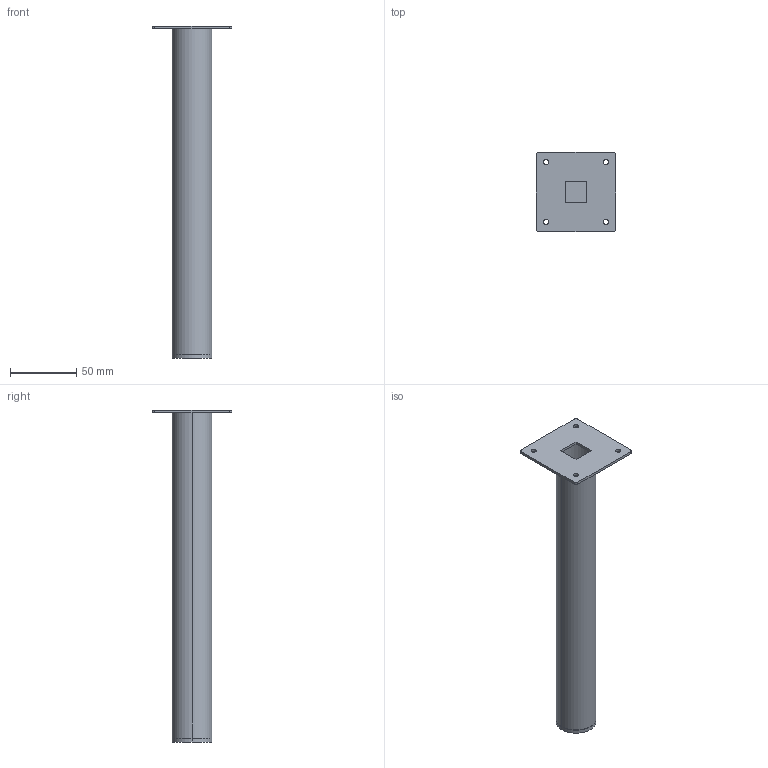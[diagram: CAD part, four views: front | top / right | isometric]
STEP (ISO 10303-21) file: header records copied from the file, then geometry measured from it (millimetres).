
FILE_DESCRIPTION( ( '' ), '1' );
FILE_NAME( 'D:/temp/hettich_stp/hettich/6.5_furniture_legs/table_legs/46272.stp', '2013-02-26T12:27:23', ( '' ), ( '' ), ' ', ' ', ' ' );
FILE_SCHEMA( ( 'automotive_design' ) );
Length unit declared in the file: millimetre
Products named in the file (1): 1
Bounding box: 60 x 60 x 250 mm (x, y, z)
Volume: 31004.1 mm3; surface area: 53617.8 mm2
Topology: 1 solids, 1 shells, 35 faces, 84 edges, 56 vertices
Faces by surface type: cylinder 20, plane 15
Entity records: 2058 total; most frequent: DIRECTION 196, STYLED_ITEM 176, PRESENTATION_STYLE_ASSIGNMENT 176, CARTESIAN_POINT 176, COLOUR_RGB 176, ORIENTED_EDGE 168, EDGE_CURVE 84, CURVE_STYLE 84
